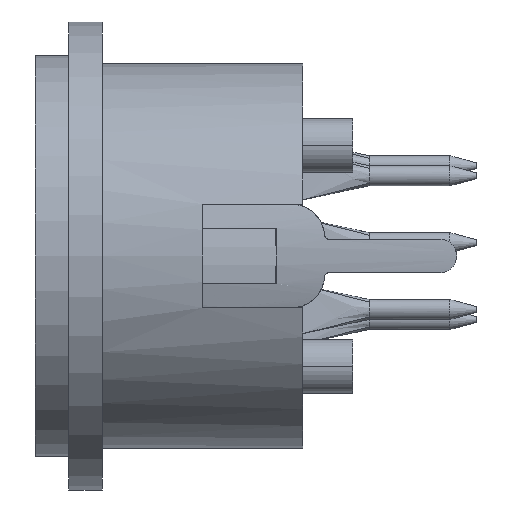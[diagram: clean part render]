
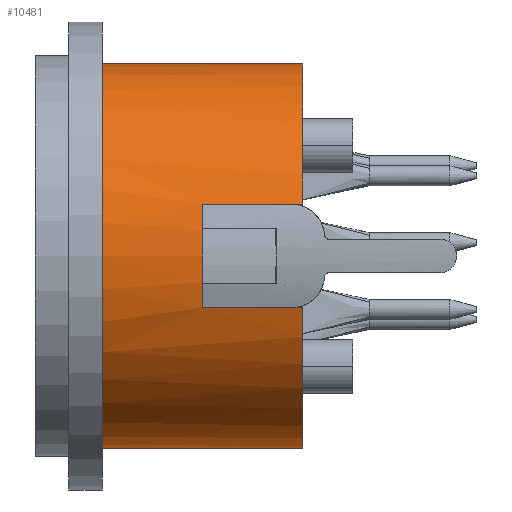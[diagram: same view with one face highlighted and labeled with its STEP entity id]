
A CAD part, left-side view. The second image highlights one B-rep face of the part: STEP entity #10481.
In plain terms, the highlighted cylindrical face has radius 5.75 mm (diameter 11.5 mm), a partial arc.
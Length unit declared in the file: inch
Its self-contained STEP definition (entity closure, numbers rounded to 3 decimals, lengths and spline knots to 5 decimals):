
#129 = CIRCLE ( 'NONE', #16650, 0.22638 ) ;
#407 = CARTESIAN_POINT ( 'NONE',  ( 0., -0.07402, -0.22638 ) ) ;
#1133 = VERTEX_POINT ( 'NONE', #11438 ) ;
#1212 = VERTEX_POINT ( 'NONE', #6698 ) ;
#1367 = AXIS2_PLACEMENT_3D ( 'NONE', #16321, #10037, #4720 ) ;
#1841 = VECTOR ( 'NONE', #8613, 39.37008 ) ;
#1934 = CARTESIAN_POINT ( 'NONE',  ( -0.218, -0.31496, -0.06102 ) ) ;
#1960 = ORIENTED_EDGE ( 'NONE', *, *, #5035, .T. ) ;
#2072 = LINE ( 'NONE', #12592, #1841 ) ;
#2150 = CARTESIAN_POINT ( 'NONE',  ( 0., -0.31496, 0.22638 ) ) ;
#2442 = EDGE_CURVE ( 'NONE', #1212, #9832, #4171, .T. ) ;
#2786 = ORIENTED_EDGE ( 'NONE', *, *, #3332, .T. ) ;
#2889 = DIRECTION ( 'NONE',  ( 0., 0., 1. ) ) ;
#3332 = EDGE_CURVE ( 'NONE', #15682, #1133, #15443, .T. ) ;
#3688 = EDGE_CURVE ( 'NONE', #12854, #15682, #4834, .T. ) ;
#4171 = LINE ( 'NONE', #407, #14113 ) ;
#4275 = CARTESIAN_POINT ( 'NONE',  ( 0., -0.07874, 0.22638 ) ) ;
#4425 = VERTEX_POINT ( 'NONE', #4275 ) ;
#4533 = CARTESIAN_POINT ( 'NONE',  ( -0.218, -0.19685, -0.06102 ) ) ;
#4720 = DIRECTION ( 'NONE',  ( -0.963, 0., -0.27 ) ) ;
#4739 = DIRECTION ( 'NONE',  ( 0., -1., 0. ) ) ;
#4834 = LINE ( 'NONE', #1934, #14652 ) ;
#4914 = CARTESIAN_POINT ( 'NONE',  ( 0., -0.07874, 0. ) ) ;
#5035 = EDGE_CURVE ( 'NONE', #9832, #12854, #129, .T. ) ;
#5527 = EDGE_LOOP ( 'NONE', ( #14778, #15684, #1960, #11818, #2786, #13583, #9592, #16239 ) ) ;
#5633 = VERTEX_POINT ( 'NONE', #2150 ) ;
#6678 = AXIS2_PLACEMENT_3D ( 'NONE', #4914, #4739, #16257 ) ;
#6698 = CARTESIAN_POINT ( 'NONE',  ( 0., -0.07874, -0.22638 ) ) ;
#6793 = CARTESIAN_POINT ( 'NONE',  ( -0.218, -0.31496, -0.06102 ) ) ;
#7187 = EDGE_CURVE ( 'NONE', #4425, #1212, #12616, .T. ) ;
#7403 = LINE ( 'NONE', #7480, #10091 ) ;
#7480 = CARTESIAN_POINT ( 'NONE',  ( 0., -0.07402, 0.22638 ) ) ;
#7836 = VERTEX_POINT ( 'NONE', #14506 ) ;
#8613 = DIRECTION ( 'NONE',  ( 0., 1., 0. ) ) ;
#9592 = ORIENTED_EDGE ( 'NONE', *, *, #11391, .T. ) ;
#9832 = VERTEX_POINT ( 'NONE', #13163 ) ;
#10037 = DIRECTION ( 'NONE',  ( 0., 1., 0. ) ) ;
#10091 = VECTOR ( 'NONE', #16453, 39.37008 ) ;
#10358 = CARTESIAN_POINT ( 'NONE',  ( 0., -0.07402, 0. ) ) ;
#10481 = ADVANCED_FACE ( 'NONE', ( #11510 ), #12552, .T. ) ;
#10525 = CIRCLE ( 'NONE', #13213, 0.22638 ) ;
#10755 = EDGE_CURVE ( 'NONE', #7836, #1133, #2072, .T. ) ;
#11391 = EDGE_CURVE ( 'NONE', #7836, #5633, #10525, .T. ) ;
#11438 = CARTESIAN_POINT ( 'NONE',  ( -0.218, -0.19685, 0.06102 ) ) ;
#11510 = FACE_OUTER_BOUND ( 'NONE', #5527, .T. ) ;
#11818 = ORIENTED_EDGE ( 'NONE', *, *, #3688, .T. ) ;
#11960 = CARTESIAN_POINT ( 'NONE',  ( 0., -0.31496, 0. ) ) ;
#12024 = DIRECTION ( 'NONE',  ( 0., 1., 0. ) ) ;
#12110 = AXIS2_PLACEMENT_3D ( 'NONE', #10358, #14083, #16451 ) ;
#12552 = CYLINDRICAL_SURFACE ( 'NONE', #12110, 0.22638 ) ;
#12592 = CARTESIAN_POINT ( 'NONE',  ( -0.218, -0.31496, 0.06102 ) ) ;
#12616 = CIRCLE ( 'NONE', #6678, 0.22638 ) ;
#12854 = VERTEX_POINT ( 'NONE', #6793 ) ;
#13163 = CARTESIAN_POINT ( 'NONE',  ( 0., -0.31496, -0.22638 ) ) ;
#13212 = DIRECTION ( 'NONE',  ( 0., -1., 0. ) ) ;
#13213 = AXIS2_PLACEMENT_3D ( 'NONE', #11960, #15858, #2889 ) ;
#13583 = ORIENTED_EDGE ( 'NONE', *, *, #10755, .F. ) ;
#14083 = DIRECTION ( 'NONE',  ( 0., -1., 0. ) ) ;
#14113 = VECTOR ( 'NONE', #13212, 39.37008 ) ;
#14261 = CARTESIAN_POINT ( 'NONE',  ( 0., -0.31496, 0. ) ) ;
#14506 = CARTESIAN_POINT ( 'NONE',  ( -0.218, -0.31496, 0.06102 ) ) ;
#14652 = VECTOR ( 'NONE', #16094, 39.37008 ) ;
#14778 = ORIENTED_EDGE ( 'NONE', *, *, #7187, .T. ) ;
#15443 = CIRCLE ( 'NONE', #1367, 0.22638 ) ;
#15682 = VERTEX_POINT ( 'NONE', #4533 ) ;
#15684 = ORIENTED_EDGE ( 'NONE', *, *, #2442, .T. ) ;
#15768 = DIRECTION ( 'NONE',  ( 0., 0., -1. ) ) ;
#15858 = DIRECTION ( 'NONE',  ( 0., 1., 0. ) ) ;
#16013 = EDGE_CURVE ( 'NONE', #4425, #5633, #7403, .T. ) ;
#16094 = DIRECTION ( 'NONE',  ( 0., 1., 0. ) ) ;
#16239 = ORIENTED_EDGE ( 'NONE', *, *, #16013, .F. ) ;
#16257 = DIRECTION ( 'NONE',  ( 0., 0., -1. ) ) ;
#16321 = CARTESIAN_POINT ( 'NONE',  ( 0., -0.19685, 0. ) ) ;
#16451 = DIRECTION ( 'NONE',  ( 0., 0., 1. ) ) ;
#16453 = DIRECTION ( 'NONE',  ( 0., -1., 0. ) ) ;
#16650 = AXIS2_PLACEMENT_3D ( 'NONE', #14261, #12024, #15768 ) ;
